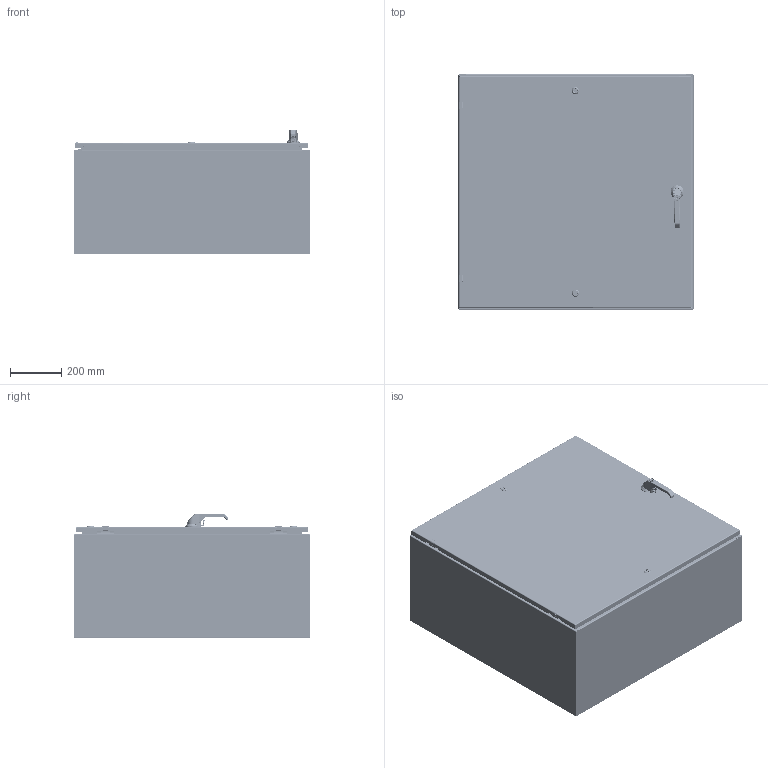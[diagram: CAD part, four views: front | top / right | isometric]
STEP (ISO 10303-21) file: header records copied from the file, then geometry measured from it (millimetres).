
FILE_DESCRIPTION((''),'2;1');
FILE_NAME('MODEL-032_ASM','2026-01-22T15:11:04',('johnh'),('SAGINAW CONTROL & ENGINEERING'),'CREO PARAMETRIC BY PTC INC, 2021284','CREO PARAMETRIC BY PTC INC, 2021284','');
FILE_SCHEMA(('AUTOMOTIVE_DESIGN { 1 0 10303 214 1 1 1 1 }'));
Length unit declared in the file: inch
Products named in the file (63): MODEL-032-BDY; MODEL-032-TP; MODEL-032-BTM; MODEL-032-DR; 100837; 100882; 111267; 100794_SHAFT; 100794_INSERT; 100794_CAM; 100794_NUT; 100794_SCREW; 100794_ASM; 100955_SCREW_MTG; 100955_PADLOCK_CATCH; 100955_SCREW_LARGE; 100955_INSERT_SHAFT; 100955_INSERT_PKH; 100955_GASKET; 100955_O-RING; 100955_BASE; 100955_SPRING; 100955_HANDLE; 100955_CAM_SHAFT; 100955_HANDLE_ASM; 100955_CAM_ADAPTER; 100955_EARTH_NUT; 100955_FLANGE_NUT; 100955_CAM_NUT; 100955_KEY_INSERT; 100955_SPRING_CAM; 100955_TORSION_SPRING; 100955_SCREW_INSERT; 100955_ASM; 128142; 100030; 128142_ASM; MODEL-032-ROD-UPR; 128146; 128145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
Assembly tree (106 placements, depth 5):
  MODEL-032_ASM
    MODEL-032-BDY
    MODEL-032-TP
    MODEL-032-BTM
    MODEL-032-DOOR-ASSY_ASM
      MODEL-032-DR
      100837  x5
      100882  x4
      111267
      100794_ASM  x2
        100794_SHAFT
        100794_INSERT
        100794_CAM
        100794_NUT
        100794_SCREW
      100955_ASM
        100955_SCREW_MTG
        100955_PADLOCK_CATCH
        100955_SCREW_LARGE  x2
        100955_INSERT_SHAFT
        100955_INSERT_PKH
        100955_GASKET
        100955_O-RING
        100955_BASE
        100955_SPRING
        100955_HANDLE_ASM
          100955_HANDLE
          100955_CAM_SHAFT
        100955_CAM_ADAPTER
        100955_EARTH_NUT
        100955_FLANGE_NUT
        100955_CAM_NUT
        100955_KEY_INSERT
        100955_SPRING_CAM
        100955_TORSION_SPRING
        100955_SCREW_INSERT
      128142_ASM
        128142
        100030  x2
      MODEL-032-ROD-UPR_ASM
        MODEL-032-ROD-UPR
        128146
        128145
        128144
        102482  x2
      128143  x2
      112504  x2
      MODEL-032-ROD-LWR_ASM
        MODEL-032-ROD-LWR
        128146
        128145
        128144
        102482  x2
      MODEL-032-POUR-GSKT
      126391_ASM  x2
        126391
      126393  x2
      101376  x2
      101226  x2
      102483  x6
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Bounding box: 914.4 x 914.4 x 484.9 mm (x, y, z)
Volume: 9749522.3 mm3; surface area: 8821639.1 mm2
Topology: 106 solids, 106 shells, 9612 faces, 23968 edges, 14585 vertices
Faces by surface type: plane 3473, cylinder 2525, bspline 1734, torus 873, cone 655, sphere 322, extrusion 30
Entity records: 354261 total; most frequent: CARTESIAN_POINT 143907, ORIENTED_EDGE 32756, DIRECTION 29495, PRESENTATION_STYLE_ASSIGNMENT 16615, EDGE_CURVE 16378, STYLED_ITEM 16335, CURVE_STYLE 16216, AXIS2_PLACEMENT_3D 10920
